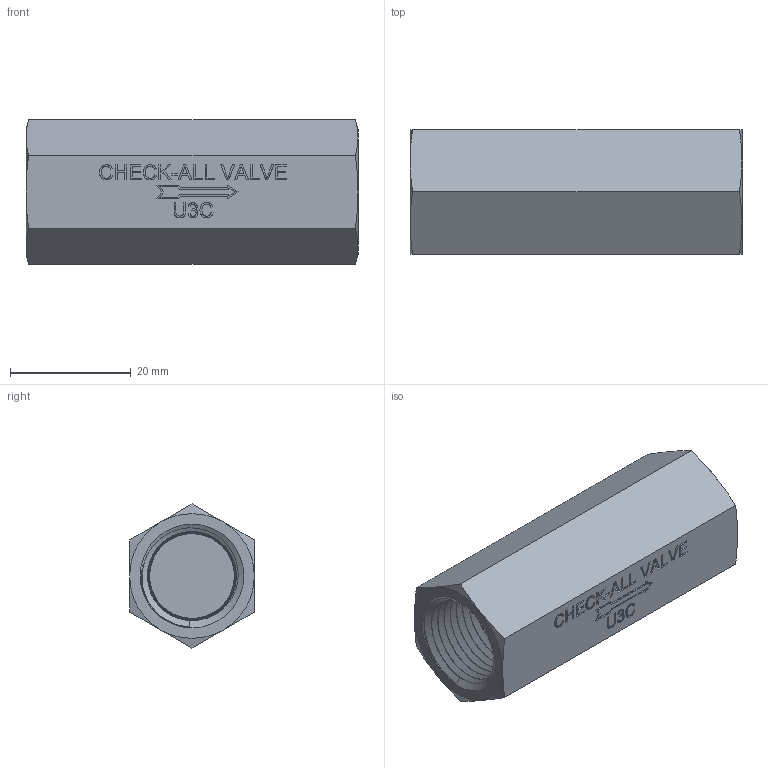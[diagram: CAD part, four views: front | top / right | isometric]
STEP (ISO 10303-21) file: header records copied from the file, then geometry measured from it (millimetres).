
FILE_DESCRIPTION( ( 'Unknown' ), '1' );
FILE_NAME( 'Y:/ENGR/3D Solid Edge Models/U3/U3-PRT/U3C.stp', 'Unknown', ( 'Unknown' ), ( 'Unknown' ), 'PSStep 14.0', 'Unknown', ' ' );
FILE_SCHEMA( ( 'AUTOMOTIVE_DESIGN { 1 0 10303 214 1 1 1 1 }' ) );
Length unit declared in the file: inch
Products named in the file (1): 1
Bounding box: 54.94 x 20.64 x 23.83 mm (x, y, z)
Volume: 15809.4 mm3; surface area: 6632.7 mm2
Topology: 1 solids, 1 shells, 215 faces, 554 edges, 364 vertices
Faces by surface type: extrusion 130, plane 57, cone 16, bspline 12
Entity records: 13230 total; most frequent: CARTESIAN_POINT 6694, ORIENTED_EDGE 1100, DIRECTION 642, EDGE_CURVE 550, VECTOR 462, VERTEX_POINT 362, B_SPLINE_CURVE_WITH_KNOTS 332, LINE 332
